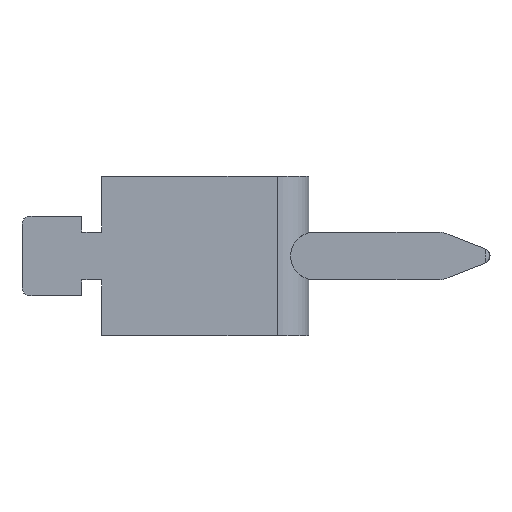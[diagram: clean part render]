
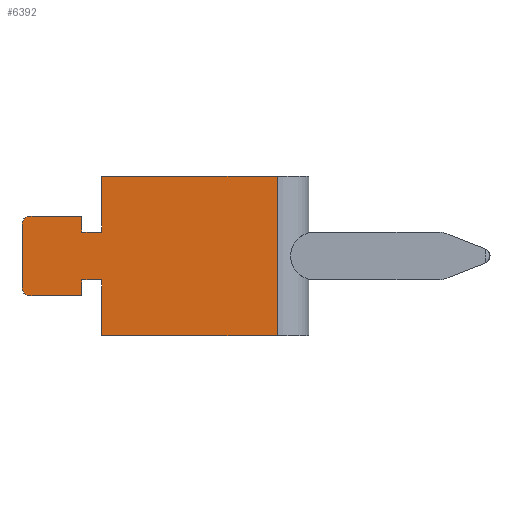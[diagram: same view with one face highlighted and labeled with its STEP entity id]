
A CAD part, left-side view. The second image highlights one B-rep face of the part: STEP entity #6392.
In plain terms, the highlighted planar face has unit normal (-1, 0, 0).
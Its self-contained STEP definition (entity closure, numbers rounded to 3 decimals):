
#26 = CARTESIAN_POINT ( 'NONE',  ( -33.5, 26.5, 3. ) ) ;
#27 = CARTESIAN_POINT ( 'NONE',  ( -33.5, 24., 3. ) ) ;
#148 = DIRECTION ( 'NONE',  ( 0., 0., -1. ) ) ;
#149 = DIRECTION ( 'NONE',  ( -1., 0., 0. ) ) ;
#150 = CARTESIAN_POINT ( 'NONE',  ( -33.5, 33., 4. ) ) ;
#151 = AXIS2_PLACEMENT_3D ( 'NONE', #150, #149, #148 ) ;
#152 = CIRCLE ( 'NONE', #151, 1. ) ;
#154 = CARTESIAN_POINT ( 'NONE',  ( -33.5, 33., 5. ) ) ;
#155 = DIRECTION ( 'NONE',  ( 0., -1., 0. ) ) ;
#156 = VECTOR ( 'NONE', #155, 1000. ) ;
#157 = CARTESIAN_POINT ( 'NONE',  ( -33.5, 34., 5. ) ) ;
#158 = LINE ( 'NONE', #157, #156 ) ;
#159 = CARTESIAN_POINT ( 'NONE',  ( -33.5, 26.5, 5. ) ) ;
#160 = DIRECTION ( 'NONE',  ( 0., 0., -1. ) ) ;
#161 = VECTOR ( 'NONE', #160, 1000. ) ;
#162 = CARTESIAN_POINT ( 'NONE',  ( -33.5, 26.5, 5. ) ) ;
#163 = LINE ( 'NONE', #162, #161 ) ;
#164 = DIRECTION ( 'NONE',  ( 0., -1., 0. ) ) ;
#165 = VECTOR ( 'NONE', #164, 1000. ) ;
#166 = CARTESIAN_POINT ( 'NONE',  ( -33.5, 26.5, 3. ) ) ;
#167 = LINE ( 'NONE', #166, #165 ) ;
#247 = DIRECTION ( 'NONE',  ( 0., 0., -1. ) ) ;
#248 = VECTOR ( 'NONE', #247, 1000. ) ;
#249 = CARTESIAN_POINT ( 'NONE',  ( -33.5, 26.5, -5. ) ) ;
#250 = LINE ( 'NONE', #249, #248 ) ;
#251 = CARTESIAN_POINT ( 'NONE',  ( -33.5, 26.5, -5. ) ) ;
#252 = DIRECTION ( 'NONE',  ( 0., 1., 0. ) ) ;
#253 = VECTOR ( 'NONE', #252, 1000. ) ;
#254 = CARTESIAN_POINT ( 'NONE',  ( -33.5, 34., -5. ) ) ;
#255 = LINE ( 'NONE', #254, #253 ) ;
#260 = DIRECTION ( 'NONE',  ( 0., 0., -1. ) ) ;
#261 = DIRECTION ( 'NONE',  ( 1., 0., 0. ) ) ;
#262 = CARTESIAN_POINT ( 'NONE',  ( -33.5, 2., 10. ) ) ;
#263 = AXIS2_PLACEMENT_3D ( 'NONE', #262, #261, #260 ) ;
#264 = PLANE ( 'NONE',  #263 ) ;
#304 = FACE_OUTER_BOUND ( 'NONE', #6393, .T. ) ;
#322 = CARTESIAN_POINT ( 'NONE',  ( -33.5, 33., -5. ) ) ;
#323 = DIRECTION ( 'NONE',  ( 0., 0., -1. ) ) ;
#324 = DIRECTION ( 'NONE',  ( -1., 0., 0. ) ) ;
#325 = CARTESIAN_POINT ( 'NONE',  ( -33.5, 33., -4. ) ) ;
#326 = AXIS2_PLACEMENT_3D ( 'NONE', #325, #324, #323 ) ;
#327 = CIRCLE ( 'NONE', #326, 1. ) ;
#328 = DIRECTION ( 'NONE',  ( 0., 0., -1. ) ) ;
#329 = VECTOR ( 'NONE', #328, 1000. ) ;
#330 = CARTESIAN_POINT ( 'NONE',  ( -33.5, 34., 10. ) ) ;
#331 = LINE ( 'NONE', #330, #329 ) ;
#425 = CARTESIAN_POINT ( 'NONE',  ( -33.5, 24., -10. ) ) ;
#426 = DIRECTION ( 'NONE',  ( 0., 0., 1. ) ) ;
#427 = VECTOR ( 'NONE', #426, 1000. ) ;
#428 = CARTESIAN_POINT ( 'NONE',  ( -33.5, 24., -10. ) ) ;
#429 = LINE ( 'NONE', #428, #427 ) ;
#430 = CARTESIAN_POINT ( 'NONE',  ( -33.5, 24., -3. ) ) ;
#431 = DIRECTION ( 'NONE',  ( 0., 1., 0. ) ) ;
#432 = VECTOR ( 'NONE', #431, 1000. ) ;
#433 = CARTESIAN_POINT ( 'NONE',  ( -33.5, 26.5, -3. ) ) ;
#434 = LINE ( 'NONE', #433, #432 ) ;
#577 = CARTESIAN_POINT ( 'NONE',  ( -33.5, 24., 10. ) ) ;
#578 = DIRECTION ( 'NONE',  ( 0., -1., 0. ) ) ;
#579 = VECTOR ( 'NONE', #578, 1000. ) ;
#580 = CARTESIAN_POINT ( 'NONE',  ( -33.5, 2., 10. ) ) ;
#581 = LINE ( 'NONE', #580, #579 ) ;
#582 = CARTESIAN_POINT ( 'NONE',  ( -33.5, 2., 10. ) ) ;
#583 = DIRECTION ( 'NONE',  ( 0., 0., -1. ) ) ;
#584 = VECTOR ( 'NONE', #583, 1000. ) ;
#585 = CARTESIAN_POINT ( 'NONE',  ( -33.5, 2., 10. ) ) ;
#586 = LINE ( 'NONE', #585, #584 ) ;
#587 = CARTESIAN_POINT ( 'NONE',  ( -33.5, 2., -10. ) ) ;
#588 = DIRECTION ( 'NONE',  ( 0., -1., 0. ) ) ;
#589 = VECTOR ( 'NONE', #588, 1000. ) ;
#590 = CARTESIAN_POINT ( 'NONE',  ( -33.5, 2., -10. ) ) ;
#591 = LINE ( 'NONE', #590, #589 ) ;
#678 = CARTESIAN_POINT ( 'NONE',  ( -33.5, 34., 4. ) ) ;
#679 = CARTESIAN_POINT ( 'NONE',  ( -33.5, 34., -4. ) ) ;
#684 = CARTESIAN_POINT ( 'NONE',  ( -33.5, 26.5, -3. ) ) ;
#685 = DIRECTION ( 'NONE',  ( 0., 0., 1. ) ) ;
#686 = VECTOR ( 'NONE', #685, 1000. ) ;
#687 = CARTESIAN_POINT ( 'NONE',  ( -33.5, 24., 10. ) ) ;
#688 = LINE ( 'NONE', #687, #686 ) ;
#6316 = VERTEX_POINT ( 'NONE', #27 ) ;
#6317 = VERTEX_POINT ( 'NONE', #26 ) ;
#6318 = ORIENTED_EDGE ( 'NONE', *, *, #6319, .F. ) ;
#6319 = EDGE_CURVE ( 'NONE', #6317, #6316, #167, .T. ) ;
#6320 = ORIENTED_EDGE ( 'NONE', *, *, #6321, .F. ) ;
#6321 = EDGE_CURVE ( 'NONE', #6322, #6317, #163, .T. ) ;
#6322 = VERTEX_POINT ( 'NONE', #159 ) ;
#6324 = ORIENTED_EDGE ( 'NONE', *, *, #6325, .F. ) ;
#6325 = EDGE_CURVE ( 'NONE', #6326, #6322, #158, .T. ) ;
#6326 = VERTEX_POINT ( 'NONE', #154 ) ;
#6327 = ORIENTED_EDGE ( 'NONE', *, *, #6328, .T. ) ;
#6328 = EDGE_CURVE ( 'NONE', #6326, #6500, #152, .T. ) ;
#6350 = ORIENTED_EDGE ( 'NONE', *, *, #6351, .F. ) ;
#6351 = EDGE_CURVE ( 'NONE', #6352, #6496, #434, .T. ) ;
#6352 = VERTEX_POINT ( 'NONE', #430 ) ;
#6353 = ORIENTED_EDGE ( 'NONE', *, *, #6354, .F. ) ;
#6354 = EDGE_CURVE ( 'NONE', #6355, #6352, #429, .T. ) ;
#6355 = VERTEX_POINT ( 'NONE', #425 ) ;
#6357 = ORIENTED_EDGE ( 'NONE', *, *, #6376, .T. ) ;
#6358 = ORIENTED_EDGE ( 'NONE', *, *, #6377, .T. ) ;
#6376 = EDGE_CURVE ( 'NONE', #6500, #6499, #331, .T. ) ;
#6377 = EDGE_CURVE ( 'NONE', #6499, #6378, #327, .T. ) ;
#6378 = VERTEX_POINT ( 'NONE', #322 ) ;
#6379 = ORIENTED_EDGE ( 'NONE', *, *, #6396, .F. ) ;
#6392 = ADVANCED_FACE ( 'NONE', ( #304 ), #264, .F. ) ;
#6393 = EDGE_LOOP ( 'NONE', ( #6357, #6358, #6379, #6398, #6350, #6353, #6485, #6488, #6491, #6494, #6318, #6320, #6324, #6327 ) ) ;
#6396 = EDGE_CURVE ( 'NONE', #6397, #6378, #255, .T. ) ;
#6397 = VERTEX_POINT ( 'NONE', #251 ) ;
#6398 = ORIENTED_EDGE ( 'NONE', *, *, #6399, .F. ) ;
#6399 = EDGE_CURVE ( 'NONE', #6496, #6397, #250, .T. ) ;
#6485 = ORIENTED_EDGE ( 'NONE', *, *, #6486, .T. ) ;
#6486 = EDGE_CURVE ( 'NONE', #6355, #6487, #591, .T. ) ;
#6487 = VERTEX_POINT ( 'NONE', #587 ) ;
#6488 = ORIENTED_EDGE ( 'NONE', *, *, #6489, .F. ) ;
#6489 = EDGE_CURVE ( 'NONE', #6490, #6487, #586, .T. ) ;
#6490 = VERTEX_POINT ( 'NONE', #582 ) ;
#6491 = ORIENTED_EDGE ( 'NONE', *, *, #6492, .F. ) ;
#6492 = EDGE_CURVE ( 'NONE', #6493, #6490, #581, .T. ) ;
#6493 = VERTEX_POINT ( 'NONE', #577 ) ;
#6494 = ORIENTED_EDGE ( 'NONE', *, *, #6495, .F. ) ;
#6495 = EDGE_CURVE ( 'NONE', #6316, #6493, #688, .T. ) ;
#6496 = VERTEX_POINT ( 'NONE', #684 ) ;
#6499 = VERTEX_POINT ( 'NONE', #679 ) ;
#6500 = VERTEX_POINT ( 'NONE', #678 ) ;
